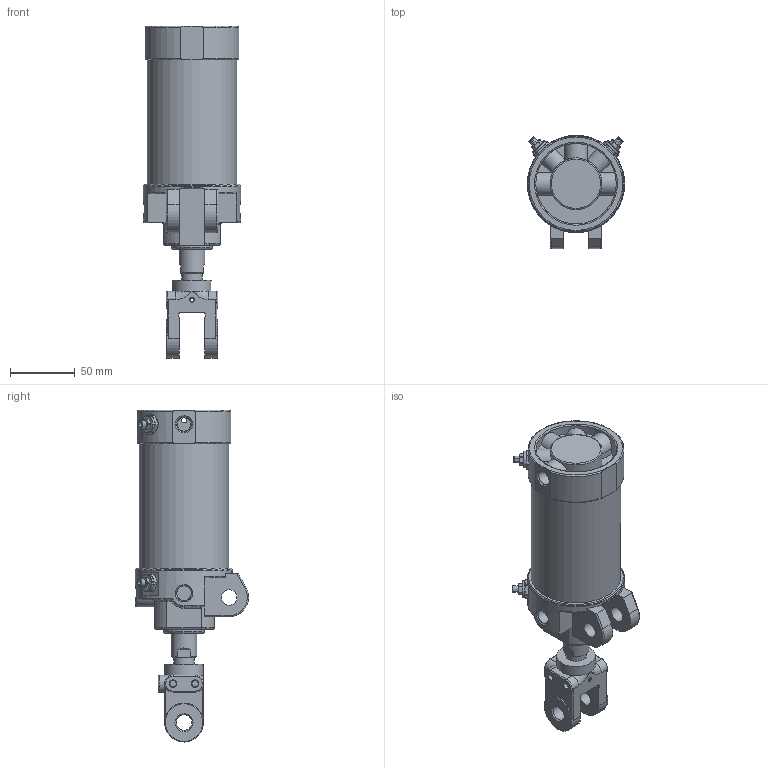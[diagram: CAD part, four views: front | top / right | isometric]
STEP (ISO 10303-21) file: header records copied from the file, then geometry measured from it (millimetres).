
FILE_DESCRIPTION((''),'2;1');
FILE_NAME('I:\3D電子目錄\氣缸\DCK\DCK\DCK-1B-63x50-Y.stp','2008-02-26T15:42:19',('Administrator'),(''),'Autodesk Inventor 11','Autodesk Inventor 11','');
FILE_SCHEMA(('AUTOMOTIVE_DESIGN { 1 0 10303 214 1 1 1 1 }'));
Length unit declared in the file: millimetre
Products named in the file (6): DCK-1B-63-Y; 緩衝針; 緩衝針-1; 緩衝針-201; 緩衝針-3
Assembly tree (8 placements, depth 3):
  DCK-1B-63-Y
    DCK-1B-63-Y
    緩衝針  x4
      緩衝針-1
      緩衝針-201
      緩衝針-3
Bounding box: 75 x 87.29 x 256 mm (x, y, z)
Volume: 358751.2 mm3; surface area: 125307.1 mm2
Topology: 16 solids, 16 shells, 672 faces, 1499 edges, 931 vertices
Faces by surface type: plane 246, cylinder 189, cone 143, torus 48, bspline 46
Full cylindrical faces by diameter (mm): 2 x1, 3 x2, 3.8 x2, 4 x6, 4.6 x4, 4.917 x2, 5 x8, 5.1 x4, 5.2 x12, 5.5 x4, 7 x1, 7.25 x1, 7.9 x4, 8 x2, 11.3 x3, 12 x4, 12.8 x4, 16 x3, 20 x1, 21 x1, 22 x2, 23 x1, 24.7 x1, 26 x1, 27 x1, 28 x1, 29 x1, 30 x3, 31 x1, 33 x1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
Entity records: 15178 total; most frequent: CARTESIAN_POINT 6245, DIRECTION 1812, ORIENTED_EDGE 1648, EDGE_CURVE 824, AXIS2_PLACEMENT_3D 775, EDGE_LOOP 630, VERTEX_POINT 590, FACE_OUTER_BOUND 423
